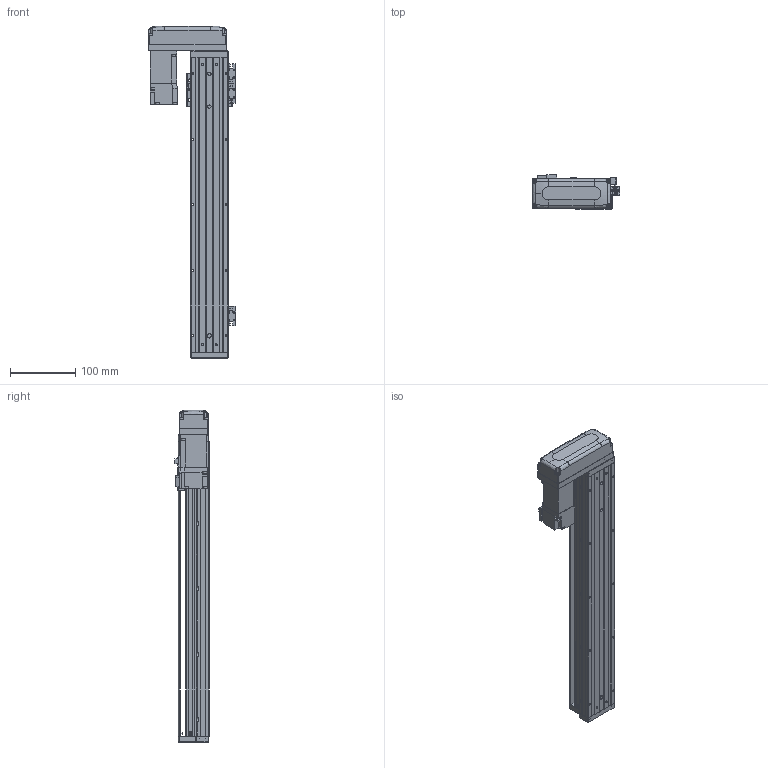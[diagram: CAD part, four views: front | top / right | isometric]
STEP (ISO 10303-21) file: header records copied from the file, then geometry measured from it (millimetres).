
FILE_DESCRIPTION (( 'STEP AP203' ), '1' );
FILE_NAME ('KTHA50-350-BR-M10-C4L.step', '2022-03-19T07:15:17', ( '微软用户' ), ( '微软中国' ), 'SwSTEP 2.0', 'SolidWorks 2020', '' );
FILE_SCHEMA (( 'CONFIG_CONTROL_DESIGN' ));
Length unit declared in the file: millimetre
Products named in the file (18): CTHA60-021; EE_SX911P_R; GBT 70.3-M3℅6; GBT77-2000 M3×3; HG-KR13（三菱）; KTHA50-001_450; GBT 70.1-M3℅6; CTHA50-015-2_CTHA60-015-2; KTHA50-002; CTHA60-017; CTHA60-033; KTHA50-004; GBT 70.1-M4×12; GBT 70.1-M3×15; KTHA50-005; CTHA60-016; KTHA50-350-BR-M10-C4L; GB¨uT 70.2-M3¡Á6_M3¡Á6
Assembly tree (53 placements, depth 2):
  KTHA50-350-BR-M10-C4L
    KTHA50-001_450
    KTHA50-002
    KTHA50-004
    KTHA50-005
    GB¨uT 70.2-M3¡Á6_M3¡Á6  x6
    EE_SX911P_R  x3
    GBT77-2000 M3×3  x6
    GBT 70.1-M3℅6  x6
    CTHA60-017  x3
    GBT 70.1-M4×12  x10
    CTHA60-016  x2
    CTHA60-021  x2
    GBT 70.3-M3℅6  x4
    HG-KR13（三菱）
    CTHA50-015-2_CTHA60-015-2
    CTHA60-033
    GBT 70.1-M3×15  x4
Bounding box: 133.82 x 52.3 x 507 mm (x, y, z)
Volume: 1107039.6 mm3; surface area: 271965 mm2
Topology: 56 solids, 56 shells, 2243 faces, 5295 edges, 3244 vertices
Faces by surface type: plane 1252, cylinder 544, cone 305, torus 100, bspline 26, sphere 16
Entity records: 37589 total; most frequent: CARTESIAN_POINT 7122, DIRECTION 5855, ORIENTED_EDGE 5602, EDGE_CURVE 2801, AXIS2_PLACEMENT_3D 1993, VECTOR 1869, LINE 1869, VERTEX_POINT 1758
